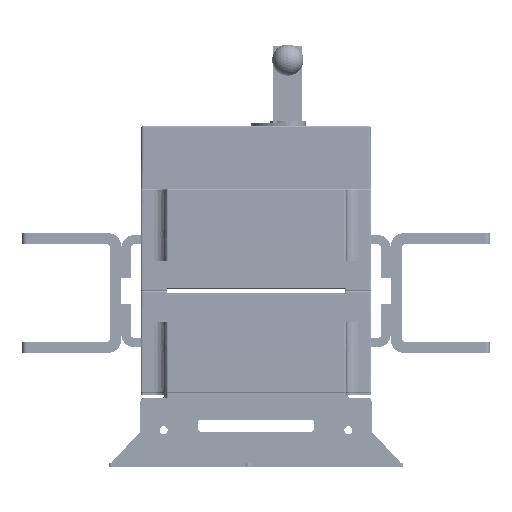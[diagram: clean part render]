
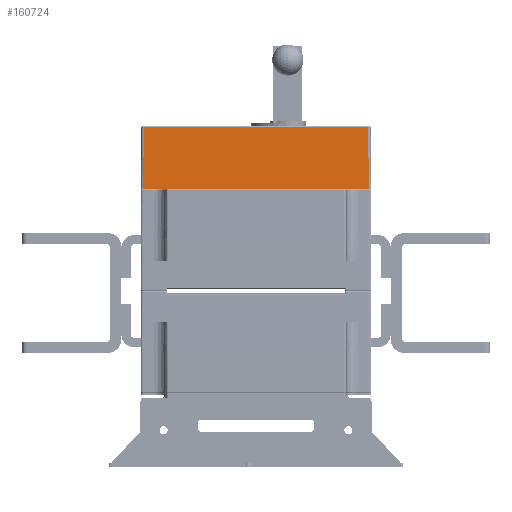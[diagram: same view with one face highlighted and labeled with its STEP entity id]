
A CAD part, left-side view. The second image highlights one B-rep face of the part: STEP entity #160724.
In plain terms, the highlighted planar face has unit normal (-1, 0, 0.005) as drawn and (1, 0, 0.005) by its records, which use the part's own axes.
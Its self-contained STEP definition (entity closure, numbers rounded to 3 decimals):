
#6199 = ORIENTED_EDGE ( 'NONE', *, *, #239884, .F. ) ;
#8180 = EDGE_CURVE ( 'NONE', #30105, #181958, #172443, .T. ) ;
#8497 = VECTOR ( 'NONE', #130804, 1000. ) ;
#14657 = AXIS2_PLACEMENT_3D ( 'NONE', #241381, #80990, #183997 ) ;
#26217 = PLANE ( 'NONE',  #14657 ) ;
#29181 = LINE ( 'NONE', #48708, #8497 ) ;
#30105 = VERTEX_POINT ( 'NONE', #233139 ) ;
#48708 = CARTESIAN_POINT ( 'NONE',  ( 62.821, 69.966, -0.993 ) ) ;
#49754 = ORIENTED_EDGE ( 'NONE', *, *, #8180, .F. ) ;
#53761 = VERTEX_POINT ( 'NONE', #179711 ) ;
#56550 = CARTESIAN_POINT ( 'NONE',  ( 62.821, 69.966, -0.993 ) ) ;
#80990 = DIRECTION ( 'NONE',  ( 1., 0., 0.005 ) ) ;
#83590 = FACE_OUTER_BOUND ( 'NONE', #215809, .T. ) ;
#89056 = CARTESIAN_POINT ( 'NONE',  ( 63.115, -124.751, -54.591 ) ) ;
#92373 = DIRECTION ( 'NONE',  ( 0., 1., 0. ) ) ;
#94409 = DIRECTION ( 'NONE',  ( 0.005, 0.005, -1. ) ) ;
#99770 = LINE ( 'NONE', #119315, #159220 ) ;
#109768 = EDGE_CURVE ( 'NONE', #30105, #53761, #99770, .T. ) ;
#119315 = CARTESIAN_POINT ( 'NONE',  ( 63.115, -124.751, -54.591 ) ) ;
#124344 = VECTOR ( 'NONE', #152860, 1000. ) ;
#130804 = DIRECTION ( 'NONE',  ( 0., -1., 0. ) ) ;
#132056 = CARTESIAN_POINT ( 'NONE',  ( 62.821, -124.457, -0.993 ) ) ;
#152860 = DIRECTION ( 'NONE',  ( -0.005, 0.005, 1. ) ) ;
#159220 = VECTOR ( 'NONE', #92373, 1000. ) ;
#160724 = ADVANCED_FACE ( 'NONE', ( #83590 ), #26217, .T. ) ;
#166094 = ORIENTED_EDGE ( 'NONE', *, *, #109768, .T. ) ;
#172443 = LINE ( 'NONE', #89056, #124344 ) ;
#176528 = LINE ( 'NONE', #56550, #240531 ) ;
#179711 = CARTESIAN_POINT ( 'NONE',  ( 63.115, 70.26, -54.591 ) ) ;
#181958 = VERTEX_POINT ( 'NONE', #132056 ) ;
#183146 = EDGE_CURVE ( 'NONE', #229815, #181958, #29181, .T. ) ;
#183997 = DIRECTION ( 'NONE',  ( 0., -1., 0. ) ) ;
#191707 = CARTESIAN_POINT ( 'NONE',  ( 62.821, 69.966, -0.993 ) ) ;
#215809 = EDGE_LOOP ( 'NONE', ( #166094, #6199, #223463, #49754 ) ) ;
#223463 = ORIENTED_EDGE ( 'NONE', *, *, #183146, .T. ) ;
#229815 = VERTEX_POINT ( 'NONE', #191707 ) ;
#233139 = CARTESIAN_POINT ( 'NONE',  ( 63.115, -124.751, -54.591 ) ) ;
#239884 = EDGE_CURVE ( 'NONE', #229815, #53761, #176528, .T. ) ;
#240531 = VECTOR ( 'NONE', #94409, 1000. ) ;
#241381 = CARTESIAN_POINT ( 'NONE',  ( 63.115, -27.246, -54.591 ) ) ;
